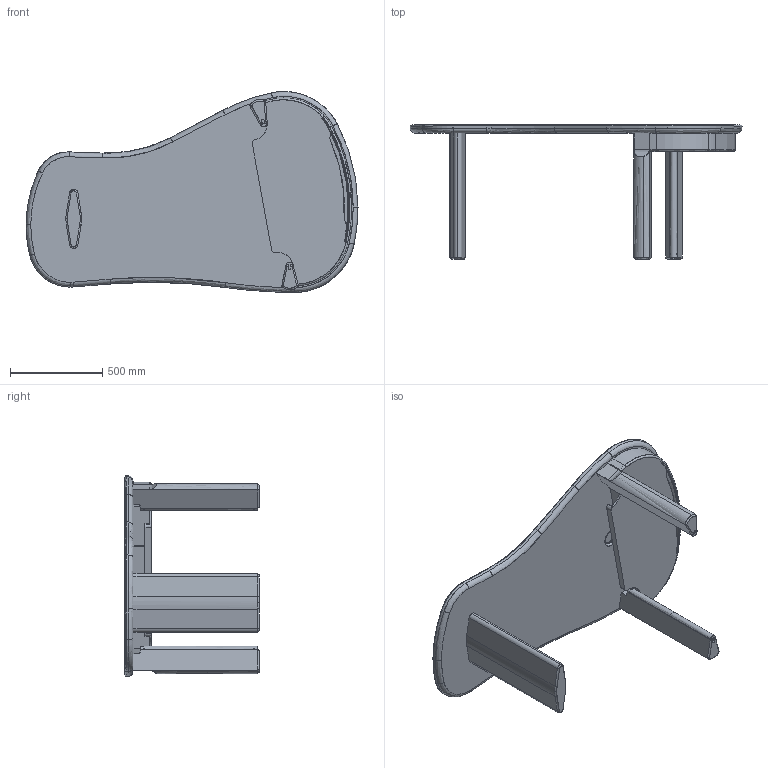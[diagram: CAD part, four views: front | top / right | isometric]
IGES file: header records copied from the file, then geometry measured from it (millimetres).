
Start section: SolidWorks IGES file using analytic representation for surfaces
Global section: file name: C:\Users\Utilizador\Desktop\Sales Files\683\683Q Twenty-Five Desk_3D IGS.IGS; native system: SolidWorks 2016; preprocessor: SolidWorks 2016; author: Utilizador; date: 221108.090706; units: millimetre
Bounding box: 1799.94 x 730 x 1089.44 mm (x, y, z)
Surface area: 5839231.8 mm2 (no closed solid volume)
Topology: 0 solids, 0 shells, 353 faces, 4489 edges, 4461 vertices
Faces by surface type: bspline 193, revolution 160
